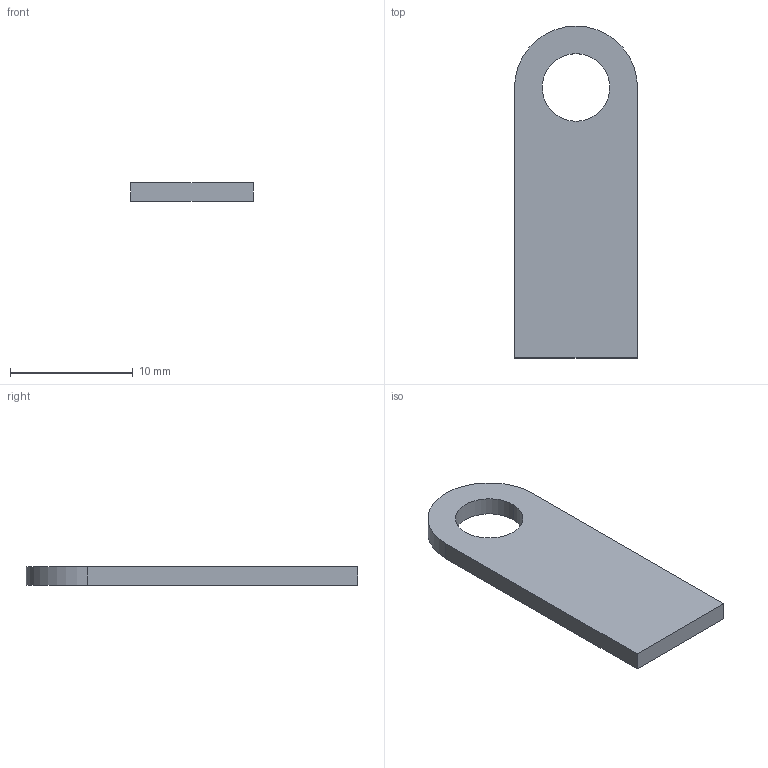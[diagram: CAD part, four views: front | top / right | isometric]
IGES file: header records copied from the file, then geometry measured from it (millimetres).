
Start section: START RECORD GO HERE.
Global section: file name: 20M_EL_09013  (bracket Fusebox).igs; native system: 44HIBM CATIA IGES - CATIA Version 5 Release 19; preprocessor: CATIA Version 5 Release 19 ; author: Mathieu Jacquet; organization: MBPRO; date: 20200123.201903; units: millimetre
Bounding box: 10 x 27 x 1.5 mm (x, y, z)
Surface area: 601.5 mm2 (no closed solid volume)
Topology: 0 solids, 0 shells, 8 faces, 36 edges, 36 vertices
Faces by surface type: plane 5, revolution 3
